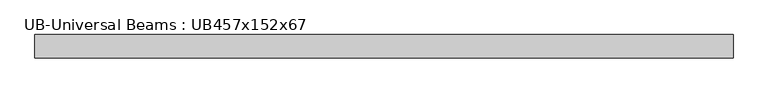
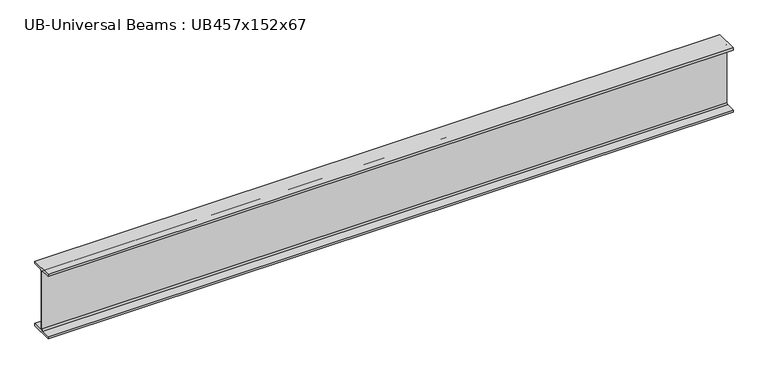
"""IFC4 building model written with IfcOpenShell, lengths in millimetres: beam geometry, UB-Universal Beams : UB457x152x67."""

from ifc_helpers import new_model, si_unit, point, frame, frame_2d, origin, place, context, project, spatial, polyline, circle_curve, trimmed, segment, composite_curve, outline, extrude, source, transform, mapped, element, save


def ub_universal_beams_ub457x152x67_2ff38e45(model_context):
    return source(origin(), model_context, "Body", "SweptSolid", [
        extrude(outline(composite_curve([segment(polyline([(76.9, -214.0), (76.9, -229.0), (-76.9, -229.0), (-76.9, -214.0), (-14.7, -214.0)]), True, "CONTINUOUS"), segment(trimmed(circle_curve(frame_2d((-14.7, -203.8)), 10.2), [point((-14.7, -214.0))], [point((-4.5, -203.8))], True, "CARTESIAN"), True, "CONTINUOUS"), segment(polyline([(-4.5, -203.8), (-4.5, 203.8)]), True, "CONTINUOUS"), segment(trimmed(circle_curve(frame_2d((-14.7, 203.8)), 10.2), [point((-4.5, 203.8))], [point((-14.7, 214.0))], True, "CARTESIAN"), True, "CONTINUOUS"), segment(polyline([(-14.7, 214.0), (-76.9, 214.0), (-76.9, 229.0), (76.9, 229.0), (76.9, 214.0), (14.7, 214.0)]), True, "CONTINUOUS"), segment(trimmed(circle_curve(frame_2d((14.7, 203.8)), 10.2), [point((14.7, 214.0))], [point((4.5, 203.8))], True, "CARTESIAN"), True, "CONTINUOUS"), segment(polyline([(4.5, 203.8), (4.5, -203.8)]), True, "CONTINUOUS"), segment(trimmed(circle_curve(frame_2d((14.7, -203.8)), 10.2), [point((4.5, -203.8))], [point((14.7, -214.0))], True, "CARTESIAN"), True, "CONTINUOUS"), segment(polyline([(14.7, -214.0), (76.9, -214.0)]), True, "CONTINUOUS")], self_intersect=False)), frame((-2279.8, 0.0, 0.0), z_axis=(1.0, 0.0, 0.0), x_axis=(0.0, 1.0, 0.0)), (0.0, 0.0, 1.0), 4617.1),
    ])


if __name__ == "__main__":
    model = new_model("IFC4")
    model_context = context("Model", 3, world=origin())
    ifc_project = project(units=[si_unit("LENGTHUNIT", "METRE", prefix="MILLI")], contexts=[model_context])
    site = spatial("IfcSite", under=ifc_project)
    building = spatial("IfcBuilding", under=site)
    placement = place(None, origin())
    ub_universal_beams_ub457x152x67_shape = ub_universal_beams_ub457x152x67_2ff38e45(model_context)
    element("IfcBeam", 1, ObjectType="UB-Universal Beams : UB457x152x67", at=placement, inside=building, context=model_context, shape_type="MappedRepresentation", body=[
        mapped(ub_universal_beams_ub457x152x67_shape, transform((0.0, 0.0, 0.0), x_axis=(1.0, 0.0, 0.0), y_axis=(0.0, 1.0, 0.0), z_axis=(0.0, 0.0, 1.0))),
    ])
    save(model, "model.ifc")
